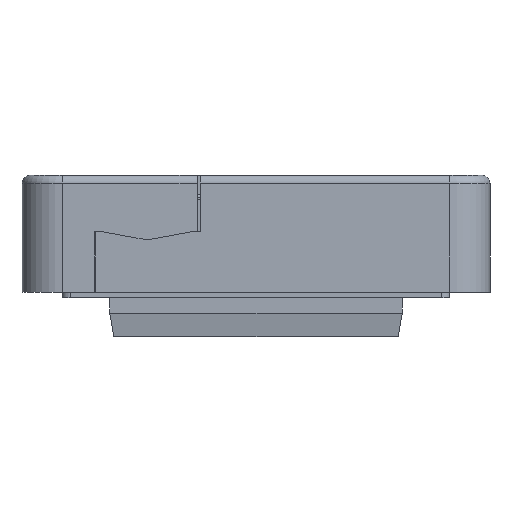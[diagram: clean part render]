
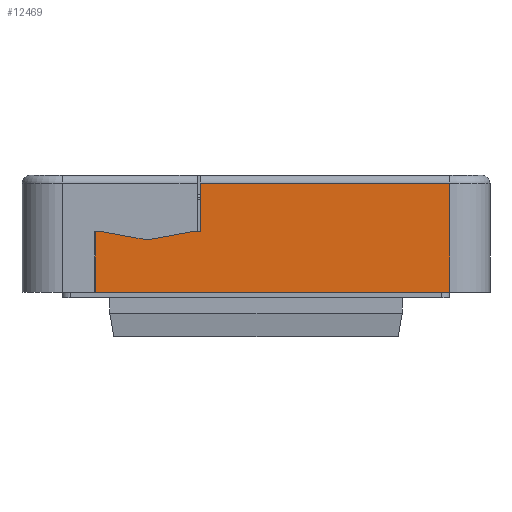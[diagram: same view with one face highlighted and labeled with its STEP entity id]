
A CAD part, left-side view. The second image highlights one B-rep face of the part: STEP entity #12469.
In plain terms, the highlighted planar face has unit normal (-1, 0, 0) as drawn and (1, 0, 0) by its records, which use the part's own axes.
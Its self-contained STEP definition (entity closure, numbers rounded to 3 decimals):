
#1315=FACE_OUTER_BOUND('',#2034,.T.);
#2034=EDGE_LOOP('',(#10276,#10277,#10278,#10279,#10280,#10281,#10282,#10283,
#10284));
#3119=LINE('',#20070,#4419);
#3125=LINE('',#20082,#4425);
#3128=LINE('',#20088,#4428);
#3129=LINE('',#20090,#4429);
#3130=LINE('',#20092,#4430);
#3131=LINE('',#20094,#4431);
#3132=LINE('',#20096,#4432);
#3133=LINE('',#20098,#4433);
#3134=LINE('',#20099,#4434);
#4419=VECTOR('',#15818,10.);
#4425=VECTOR('',#15826,10.);
#4428=VECTOR('',#15831,10.);
#4429=VECTOR('',#15832,10.);
#4430=VECTOR('',#15833,10.);
#4431=VECTOR('',#15834,10.);
#4432=VECTOR('',#15835,10.);
#4433=VECTOR('',#15836,10.);
#4434=VECTOR('',#15837,10.);
#5684=VERTEX_POINT('',#20068);
#5685=VERTEX_POINT('',#20069);
#5690=VERTEX_POINT('',#20081);
#5692=VERTEX_POINT('',#20087);
#5693=VERTEX_POINT('',#20089);
#5694=VERTEX_POINT('',#20091);
#5695=VERTEX_POINT('',#20093);
#5696=VERTEX_POINT('',#20095);
#5697=VERTEX_POINT('',#20097);
#7289=EDGE_CURVE('',#5684,#5685,#3119,.T.);
#7295=EDGE_CURVE('',#5690,#5684,#3125,.T.);
#7298=EDGE_CURVE('',#5692,#5685,#3128,.T.);
#7299=EDGE_CURVE('',#5693,#5692,#3129,.T.);
#7300=EDGE_CURVE('',#5694,#5693,#3130,.T.);
#7301=EDGE_CURVE('',#5694,#5695,#3131,.T.);
#7302=EDGE_CURVE('',#5695,#5696,#3132,.T.);
#7303=EDGE_CURVE('',#5696,#5697,#3133,.T.);
#7304=EDGE_CURVE('',#5697,#5690,#3134,.T.);
#10276=ORIENTED_EDGE('',*,*,#7289,.T.);
#10277=ORIENTED_EDGE('',*,*,#7298,.F.);
#10278=ORIENTED_EDGE('',*,*,#7299,.F.);
#10279=ORIENTED_EDGE('',*,*,#7300,.F.);
#10280=ORIENTED_EDGE('',*,*,#7301,.T.);
#10281=ORIENTED_EDGE('',*,*,#7302,.T.);
#10282=ORIENTED_EDGE('',*,*,#7303,.T.);
#10283=ORIENTED_EDGE('',*,*,#7304,.T.);
#10284=ORIENTED_EDGE('',*,*,#7295,.T.);
#11857=PLANE('',#13428);
#12469=ADVANCED_FACE('',(#1315),#11857,.T.);
#13428=AXIS2_PLACEMENT_3D('',#20086,#15829,#15830);
#15818=DIRECTION('',(0.,0.,1.));
#15826=DIRECTION('',(0.,1.,0.));
#15829=DIRECTION('center_axis',(1.,0.,0.));
#15830=DIRECTION('ref_axis',(0.,0.,-1.));
#15831=DIRECTION('',(0.,1.,0.));
#15832=DIRECTION('',(0.,0.,1.));
#15833=DIRECTION('',(0.,-1.,0.));
#15834=DIRECTION('',(0.,0.,1.));
#15835=DIRECTION('',(0.,1.,0.));
#15836=DIRECTION('',(0.,0.984,0.179));
#15837=DIRECTION('',(0.,0.984,-0.179));
#20068=CARTESIAN_POINT('',(60.5,19.9,-8.));
#20069=CARTESIAN_POINT('',(60.5,19.9,-0.5));
#20070=CARTESIAN_POINT('',(60.5,19.9,-2.554));
#20081=CARTESIAN_POINT('',(60.5,19.,-8.));
#20082=CARTESIAN_POINT('',(60.5,-3.75,-8.));
#20086=CARTESIAN_POINT('Origin',(60.5,-27.5,0.));
#20087=CARTESIAN_POINT('',(60.5,-24.,-0.5));
#20088=CARTESIAN_POINT('',(60.5,-29.,-0.5));
#20089=CARTESIAN_POINT('',(60.5,-24.,-14.));
#20090=CARTESIAN_POINT('',(60.5,-24.,-0.25));
#20091=CARTESIAN_POINT('',(60.5,6.9,-14.));
#20092=CARTESIAN_POINT('',(60.5,-13.75,-14.));
#20093=CARTESIAN_POINT('',(60.5,6.9,-8.));
#20094=CARTESIAN_POINT('',(60.5,6.9,-5.928));
#20095=CARTESIAN_POINT('',(60.5,8.,-8.));
#20096=CARTESIAN_POINT('',(60.5,-3.75,-8.));
#20097=CARTESIAN_POINT('',(60.5,13.5,-7.));
#20098=CARTESIAN_POINT('',(60.5,-5.728,-10.496));
#20099=CARTESIAN_POINT('',(60.5,-4.21,-3.78));
